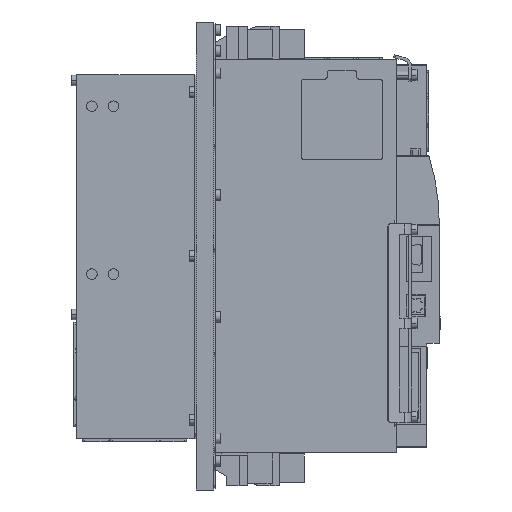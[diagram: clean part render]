
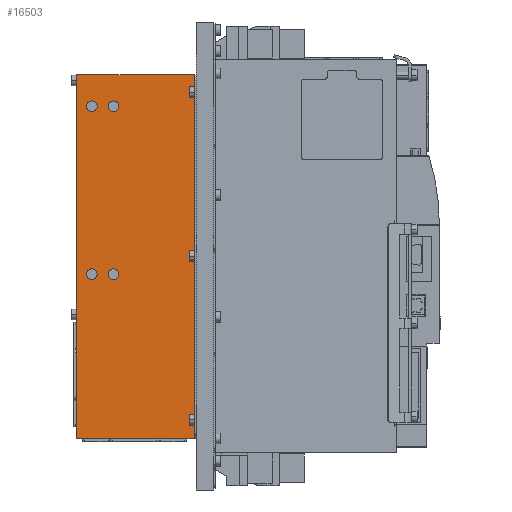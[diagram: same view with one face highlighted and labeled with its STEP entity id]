
A CAD part, left-side view. The second image highlights one B-rep face of the part: STEP entity #16503.
In plain terms, the highlighted planar face has unit normal (-1, 0, 0) as drawn and (1, 0, 0) by its records, which use the part's own axes.
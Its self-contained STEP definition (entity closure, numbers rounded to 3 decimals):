
#478 = CIRCLE ( 'NONE', #22994, 4.5 ) ;
#585 = ORIENTED_EDGE ( 'NONE', *, *, #868, .F. ) ;
#828 = ORIENTED_EDGE ( 'NONE', *, *, #8670, .T. ) ;
#868 = EDGE_CURVE ( 'NONE', #46487, #10194, #3665, .T. ) ;
#944 = ORIENTED_EDGE ( 'NONE', *, *, #32016, .T. ) ;
#2082 = VERTEX_POINT ( 'NONE', #28525 ) ;
#3057 = CARTESIAN_POINT ( 'NONE',  ( 83.688, 102., 0. ) ) ;
#3560 = ORIENTED_EDGE ( 'NONE', *, *, #9362, .F. ) ;
#3665 = LINE ( 'NONE', #32372, #30416 ) ;
#4500 = EDGE_LOOP ( 'NONE', ( #43437, #12795 ) ) ;
#4681 = LINE ( 'NONE', #19010, #35489 ) ;
#6836 = AXIS2_PLACEMENT_3D ( 'NONE', #25693, #7385, #43378 ) ;
#6898 = VERTEX_POINT ( 'NONE', #13422 ) ;
#7169 = CARTESIAN_POINT ( 'NONE',  ( 83.688, -353.311, 0. ) ) ;
#7385 = DIRECTION ( 'NONE',  ( -1., 0., 0. ) ) ;
#7544 = EDGE_CURVE ( 'NONE', #46487, #2082, #26691, .T. ) ;
#8007 = ORIENTED_EDGE ( 'NONE', *, *, #31517, .T. ) ;
#8255 = CARTESIAN_POINT ( 'NONE',  ( 83.688, 27., 140.751 ) ) ;
#8379 = DIRECTION ( 'NONE',  ( -1., 0., 0. ) ) ;
#8670 = EDGE_CURVE ( 'NONE', #40427, #24418, #28615, .T. ) ;
#9362 = EDGE_CURVE ( 'NONE', #45395, #35218, #4681, .T. ) ;
#10194 = VERTEX_POINT ( 'NONE', #18668 ) ;
#10508 = DIRECTION ( 'NONE',  ( 0., 1., 0. ) ) ;
#10533 = DIRECTION ( 'NONE',  ( -1., 0., 0. ) ) ;
#10908 = PLANE ( 'NONE',  #17946 ) ;
#10979 = DIRECTION ( 'NONE',  ( -1., 0., 0. ) ) ;
#11106 = ORIENTED_EDGE ( 'NONE', *, *, #39422, .T. ) ;
#11530 = VERTEX_POINT ( 'NONE', #46422 ) ;
#12041 = CARTESIAN_POINT ( 'NONE',  ( 83.688, -353.311, 0. ) ) ;
#12335 = DIRECTION ( 'NONE',  ( 0., 0., -1. ) ) ;
#12795 = ORIENTED_EDGE ( 'NONE', *, *, #39913, .T. ) ;
#13422 = CARTESIAN_POINT ( 'NONE',  ( 83.688, 8.5, 140.751 ) ) ;
#13630 = ORIENTED_EDGE ( 'NONE', *, *, #33252, .T. ) ;
#14211 = CIRCLE ( 'NONE', #22452, 4.5 ) ;
#15020 = AXIS2_PLACEMENT_3D ( 'NONE', #34352, #16218, #20193 ) ;
#15796 = DIRECTION ( 'NONE',  ( 0., 1., 0. ) ) ;
#16218 = DIRECTION ( 'NONE',  ( -1., 0., 0. ) ) ;
#16397 = CARTESIAN_POINT ( 'NONE',  ( 83.688, 99.75, 1.26 ) ) ;
#16503 = ADVANCED_FACE ( 'NONE', ( #34943, #39151, #21008, #28087, #43144 ), #10908, .T. ) ;
#16635 = DIRECTION ( 'NONE',  ( 0., -1., 0. ) ) ;
#17603 = EDGE_LOOP ( 'NONE', ( #8007, #11106 ) ) ;
#17678 = CARTESIAN_POINT ( 'NONE',  ( 83.688, 17.5, 140.751 ) ) ;
#17752 = CARTESIAN_POINT ( 'NONE',  ( 83.688, 27., 284.251 ) ) ;
#17946 = AXIS2_PLACEMENT_3D ( 'NONE', #7169, #31877, #46223 ) ;
#17977 = DIRECTION ( 'NONE',  ( 0., 1., 0. ) ) ;
#18668 = CARTESIAN_POINT ( 'NONE',  ( 83.688, 100.75, 311.251 ) ) ;
#18766 = VECTOR ( 'NONE', #45037, 1000. ) ;
#19010 = CARTESIAN_POINT ( 'NONE',  ( 83.688, 102., 0. ) ) ;
#19095 = LINE ( 'NONE', #12041, #28782 ) ;
#19412 = CARTESIAN_POINT ( 'NONE',  ( 83.688, 31.5, 140.751 ) ) ;
#19692 = DIRECTION ( 'NONE',  ( -1., 0., 0. ) ) ;
#20176 = ORIENTED_EDGE ( 'NONE', *, *, #46285, .T. ) ;
#20193 = DIRECTION ( 'NONE',  ( 0., 1., 0. ) ) ;
#20478 = CARTESIAN_POINT ( 'NONE',  ( 83.688, 100.75, 1.26 ) ) ;
#20915 = CARTESIAN_POINT ( 'NONE',  ( 83.688, 17.5, 284.251 ) ) ;
#21008 = FACE_BOUND ( 'NONE', #17603, .T. ) ;
#21404 = CIRCLE ( 'NONE', #27432, 4.5 ) ;
#22452 = AXIS2_PLACEMENT_3D ( 'NONE', #26781, #19692, #22510 ) ;
#22510 = DIRECTION ( 'NONE',  ( 0., 1., 0. ) ) ;
#22994 = AXIS2_PLACEMENT_3D ( 'NONE', #24868, #10533, #42091 ) ;
#24418 = VERTEX_POINT ( 'NONE', #25130 ) ;
#24868 = CARTESIAN_POINT ( 'NONE',  ( 83.688, 13., 140.751 ) ) ;
#25091 = EDGE_LOOP ( 'NONE', ( #3560, #34033, #34225, #585, #29287, #13630 ) ) ;
#25130 = CARTESIAN_POINT ( 'NONE',  ( 83.688, 36., 140.751 ) ) ;
#25569 = EDGE_CURVE ( 'NONE', #45395, #39123, #42067, .T. ) ;
#25693 = CARTESIAN_POINT ( 'NONE',  ( 83.688, 31.5, 284.251 ) ) ;
#25958 = DIRECTION ( 'NONE',  ( -1., 0., 0. ) ) ;
#26494 = CARTESIAN_POINT ( 'NONE',  ( 83.688, 0., 311.251 ) ) ;
#26691 = LINE ( 'NONE', #33984, #18766 ) ;
#26781 = CARTESIAN_POINT ( 'NONE',  ( 83.688, 31.5, 284.251 ) ) ;
#27427 = ORIENTED_EDGE ( 'NONE', *, *, #45546, .T. ) ;
#27432 = AXIS2_PLACEMENT_3D ( 'NONE', #33451, #39646, #17977 ) ;
#28087 = FACE_BOUND ( 'NONE', #32916, .T. ) ;
#28132 = DIRECTION ( 'NONE',  ( 0., 1., 0. ) ) ;
#28355 = CARTESIAN_POINT ( 'NONE',  ( 83.688, 102., 1.26 ) ) ;
#28501 = EDGE_CURVE ( 'NONE', #11530, #42569, #14211, .T. ) ;
#28525 = CARTESIAN_POINT ( 'NONE',  ( 83.688, 0., 0. ) ) ;
#28615 = CIRCLE ( 'NONE', #33121, 4.5 ) ;
#28782 = VECTOR ( 'NONE', #15796, 1000. ) ;
#29287 = ORIENTED_EDGE ( 'NONE', *, *, #7544, .T. ) ;
#29958 = DIRECTION ( 'NONE',  ( 0., 1., 0. ) ) ;
#30094 = DIRECTION ( 'NONE',  ( 0., 0., -1. ) ) ;
#30416 = VECTOR ( 'NONE', #28132, 1000. ) ;
#30782 = VERTEX_POINT ( 'NONE', #17678 ) ;
#30926 = AXIS2_PLACEMENT_3D ( 'NONE', #39912, #10979, #10508 ) ;
#30995 = CIRCLE ( 'NONE', #34009, 4.5 ) ;
#31517 = EDGE_CURVE ( 'NONE', #44743, #45140, #41465, .T. ) ;
#31877 = DIRECTION ( 'NONE',  ( 1., 0., 0. ) ) ;
#32016 = EDGE_CURVE ( 'NONE', #6898, #30782, #30995, .T. ) ;
#32372 = CARTESIAN_POINT ( 'NONE',  ( 83.688, -353.311, 311.251 ) ) ;
#32805 = CARTESIAN_POINT ( 'NONE',  ( 83.688, 13., 140.751 ) ) ;
#32916 = EDGE_LOOP ( 'NONE', ( #27427, #828 ) ) ;
#33121 = AXIS2_PLACEMENT_3D ( 'NONE', #19412, #8379, #33799 ) ;
#33252 = EDGE_CURVE ( 'NONE', #2082, #35218, #19095, .T. ) ;
#33277 = CARTESIAN_POINT ( 'NONE',  ( 83.688, 100.75, 311.251 ) ) ;
#33451 = CARTESIAN_POINT ( 'NONE',  ( 83.688, 31.5, 140.751 ) ) ;
#33799 = DIRECTION ( 'NONE',  ( 0., 1., 0. ) ) ;
#33984 = CARTESIAN_POINT ( 'NONE',  ( 83.688, 0., 0. ) ) ;
#34009 = AXIS2_PLACEMENT_3D ( 'NONE', #32805, #25958, #29958 ) ;
#34033 = ORIENTED_EDGE ( 'NONE', *, *, #25569, .T. ) ;
#34225 = ORIENTED_EDGE ( 'NONE', *, *, #37460, .F. ) ;
#34352 = CARTESIAN_POINT ( 'NONE',  ( 83.688, 13., 284.251 ) ) ;
#34943 = FACE_OUTER_BOUND ( 'NONE', #25091, .T. ) ;
#35055 = VECTOR ( 'NONE', #12335, 1000. ) ;
#35218 = VERTEX_POINT ( 'NONE', #3057 ) ;
#35489 = VECTOR ( 'NONE', #30094, 1000. ) ;
#37460 = EDGE_CURVE ( 'NONE', #10194, #39123, #44564, .T. ) ;
#39123 = VERTEX_POINT ( 'NONE', #20478 ) ;
#39151 = FACE_BOUND ( 'NONE', #4500, .T. ) ;
#39422 = EDGE_CURVE ( 'NONE', #45140, #44743, #45858, .T. ) ;
#39646 = DIRECTION ( 'NONE',  ( -1., 0., 0. ) ) ;
#39912 = CARTESIAN_POINT ( 'NONE',  ( 83.688, 13., 284.251 ) ) ;
#39913 = EDGE_CURVE ( 'NONE', #42569, #11530, #42131, .T. ) ;
#40427 = VERTEX_POINT ( 'NONE', #8255 ) ;
#40972 = VECTOR ( 'NONE', #16635, 1000. ) ;
#41269 = EDGE_LOOP ( 'NONE', ( #20176, #944 ) ) ;
#41465 = CIRCLE ( 'NONE', #30926, 4.5 ) ;
#42067 = LINE ( 'NONE', #16397, #40972 ) ;
#42091 = DIRECTION ( 'NONE',  ( 0., 1., 0. ) ) ;
#42131 = CIRCLE ( 'NONE', #6836, 4.5 ) ;
#42569 = VERTEX_POINT ( 'NONE', #17752 ) ;
#43144 = FACE_BOUND ( 'NONE', #41269, .T. ) ;
#43238 = CARTESIAN_POINT ( 'NONE',  ( 83.688, 8.5, 284.251 ) ) ;
#43378 = DIRECTION ( 'NONE',  ( 0., 1., 0. ) ) ;
#43437 = ORIENTED_EDGE ( 'NONE', *, *, #28501, .T. ) ;
#44564 = LINE ( 'NONE', #33277, #35055 ) ;
#44743 = VERTEX_POINT ( 'NONE', #20915 ) ;
#45037 = DIRECTION ( 'NONE',  ( 0., 0., -1. ) ) ;
#45140 = VERTEX_POINT ( 'NONE', #43238 ) ;
#45395 = VERTEX_POINT ( 'NONE', #28355 ) ;
#45546 = EDGE_CURVE ( 'NONE', #24418, #40427, #21404, .T. ) ;
#45858 = CIRCLE ( 'NONE', #15020, 4.5 ) ;
#46223 = DIRECTION ( 'NONE',  ( 0., 1., 0. ) ) ;
#46285 = EDGE_CURVE ( 'NONE', #30782, #6898, #478, .T. ) ;
#46422 = CARTESIAN_POINT ( 'NONE',  ( 83.688, 36., 284.251 ) ) ;
#46487 = VERTEX_POINT ( 'NONE', #26494 ) ;
